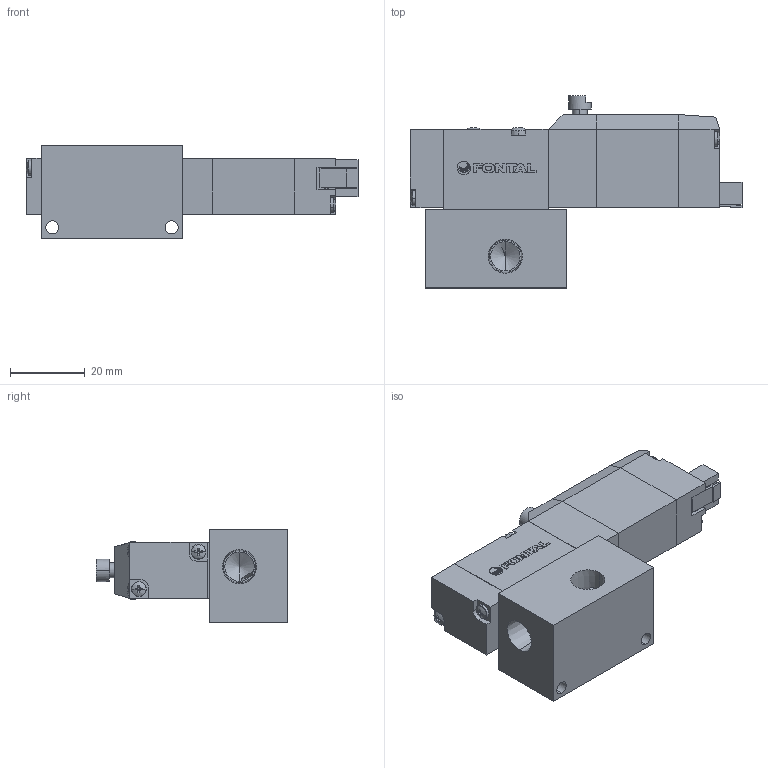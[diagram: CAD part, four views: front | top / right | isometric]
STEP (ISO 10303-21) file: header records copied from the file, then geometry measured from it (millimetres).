
FILE_DESCRIPTION (( 'STEP AP203' ), '1' );
FILE_NAME ('PCL245#-01-#-SP-#.STEP', '2016-02-04T03:48:26', ( 'Sam Lin' ), ( '' ), 'SwSTEP 2.0', 'SolidWorks 2013', '' );
FILE_SCHEMA (( 'CONFIG_CONTROL_DESIGN' ));
Length unit declared in the file: metre
Products named in the file (12): PCL245#-01-#-SP-#; PC-MARK; ISO 7045 - M2.5 x 25; PC5-7; PC5-8; PC5-01-1; PC5-10; PC5-2; PC5-5-PCL･ﾎ; ISO 7045 - M2 x 10; 手動鈕; PC5-3
Assembly tree (15 placements, depth 2):
  PCL245#-01-#-SP-#
    PC5-2
    ISO 7045 - M2 x 10  x4
    PC5-3
    PC-MARK
    ISO 7045 - M2.5 x 25  x2
    PC5-7
    PC5-8
    PC5-01-1
    PC5-10
    PC5-5-PCL･ﾎ
    手動鈕
Bounding box: 89.07 x 51.5 x 25 mm (x, y, z)
Volume: 44253.8 mm3; surface area: 19160.5 mm2
Topology: 22 solids, 22 shells, 550 faces, 1362 edges, 848 vertices
Faces by surface type: plane 321, cylinder 97, cone 88, bspline 44
Entity records: 13031 total; most frequent: CARTESIAN_POINT 2610, ORIENTED_EDGE 1876, DIRECTION 1845, EDGE_CURVE 938, AXIS2_PLACEMENT_3D 619, VERTEX_POINT 608, VECTOR 607, LINE 607
